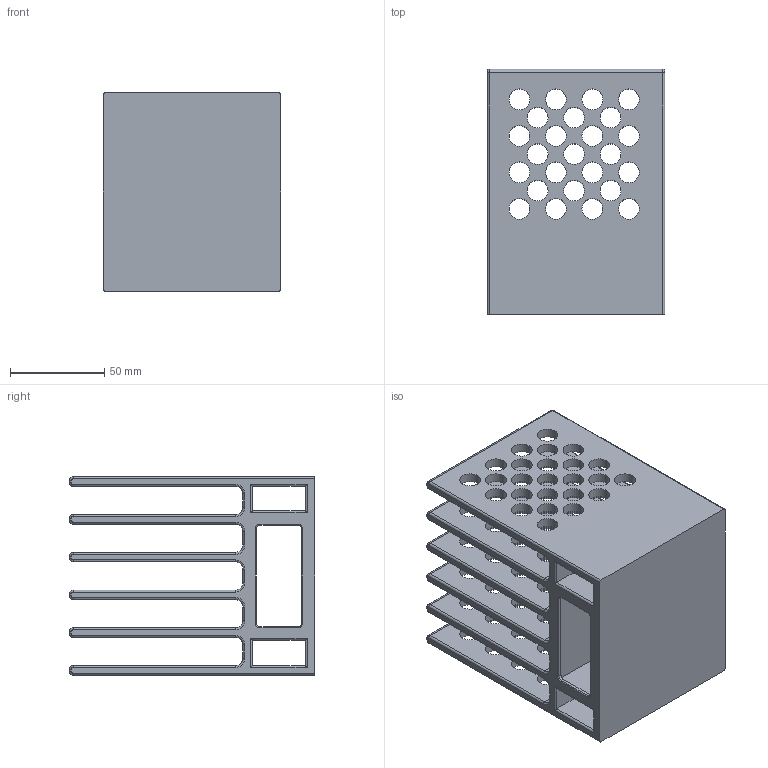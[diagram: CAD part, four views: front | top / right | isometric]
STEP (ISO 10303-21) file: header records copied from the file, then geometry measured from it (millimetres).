
FILE_DESCRIPTION(/* description */ (''),/* implementation_level */ '2;1');
FILE_NAME(/* name */ '/Users/drivec/Desktop/5_Device_Charging_Station.step',/* time_stamp */ '2020-10-05T20:27:40-06:00',/* author */ (''),/* organization */ (''),/* preprocessor_version */ 'ST-DEVELOPER v18.1',/* originating_system */ 'Autodesk Translation Framework v9.3.0.1241',/* authorisation */ '');
FILE_SCHEMA (('AUTOMOTIVE_DESIGN { 1 0 10303 214 3 1 1 }'));
Length unit declared in the file: millimetre
Products named in the file (1): 10_Device_Charging_Station
Bounding box: 94 x 130 x 105 mm (x, y, z)
Volume: 343086 mm3; surface area: 165278.1 mm2
Topology: 1 solids, 1 shells, 337 faces, 886 edges, 552 vertices
Faces by surface type: cylinder 246, plane 43, torus 24, bspline 24
Full cylindrical faces by diameter (mm): 11 x150
Entity records: 11280 total; most frequent: DIRECTION 2034, CARTESIAN_POINT 1968, ORIENTED_EDGE 1772, EDGE_CURVE 886, AXIS2_PLACEMENT_3D 834, EDGE_LOOP 644, VERTEX_POINT 552, CIRCLE 500
